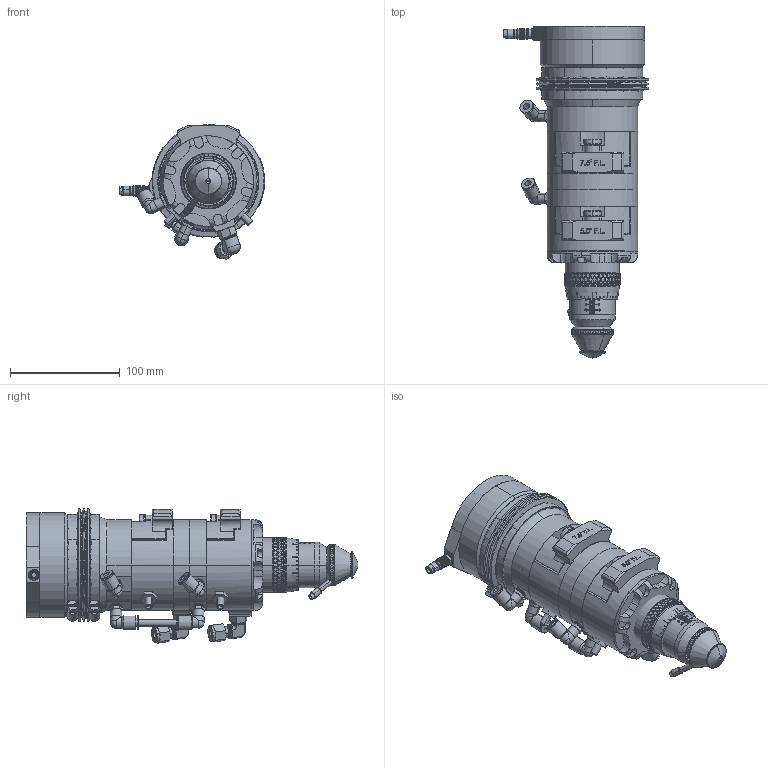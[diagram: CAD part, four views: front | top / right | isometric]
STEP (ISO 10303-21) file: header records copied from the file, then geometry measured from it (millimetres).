
FILE_DESCRIPTION (( 'STEP AP214' ), '1' );
FILE_NAME ('G5-38-127-191-AMX-CP.STEP', '2017-01-17T22:02:37', ( '' ), ( '' ), 'SwSTEP 2.0', 'SolidWorks 2017', '' );
FILE_SCHEMA (( 'AUTOMOTIVE_DESIGN' ));
Length unit declared in the file: inch
Products named in the file (1): G5-38-127-191-AMX-CP
Bounding box: 132.5 x 302.53 x 122.57 mm (x, y, z)
Volume: 1452464.8 mm3; surface area: 353253.5 mm2
Topology: 91 solids, 91 shells, 5749 faces, 14202 edges, 8834 vertices
Faces by surface type: plane 3265, cylinder 1381, cone 793, torus 168, bspline 122, sphere 20
Entity records: 178696 total; most frequent: CARTESIAN_POINT 47455, ORIENTED_EDGE 28352, DIRECTION 25682, EDGE_CURVE 14176, AXIS2_PLACEMENT_3D 9228, VERTEX_POINT 8828, LINE 7226, VECTOR 7226
